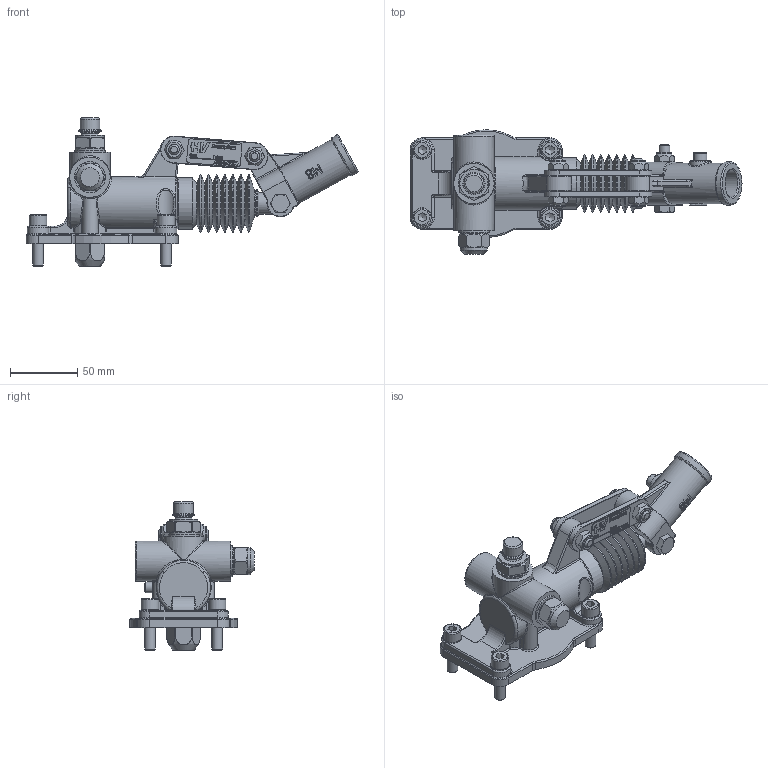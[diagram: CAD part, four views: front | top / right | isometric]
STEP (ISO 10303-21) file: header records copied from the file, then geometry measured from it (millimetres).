
FILE_DESCRIPTION((''),'2;1');
FILE_NAME('G:\HV_HYDRAULIC\AZIENDA_HV_HYDRAULIC\ARCHIVIO_DISEGNI\5_PRODOTTI_FINITI\1_POMPE_MANUALI\6066_PMSE_15\6066.0040_PMSE_15_byA-e-s_(HV)\6066.0040.stp','2024-03-25T16:16:20',('christian.scardovi'),(''),'Autodesk Inventor 2013','Autodesk Inventor 2013','');
FILE_SCHEMA(('AUTOMOTIVE_DESIGN { 1 0 10303 214 1 1 1 1 }'));
Length unit declared in the file: millimetre
Products named in the file (1): 6066.0040
Bounding box: 246.63 x 92.5 x 110 mm (x, y, z)
Volume: 345407.2 mm3; surface area: 90862.4 mm2
Topology: 1 solids, 1 shells, 1332 faces, 3309 edges, 2056 vertices
Faces by surface type: plane 603, cylinder 247, bspline 212, torus 125, cone 120, sphere 25
Full cylindrical faces by diameter (mm): 5 x6, 6 x1, 6.5 x1, 8 x7, 9 x2, 9.5 x2, 10 x1, 11.05 x5, 11.6 x1, 12 x4, 13 x4, 13.5 x1, 14 x4, 14.5 x1, 14.95 x4, 16 x1, 16.5 x1, 16.6 x2, 17 x1, 20 x3, 20.5 x2, 21 x2, 22 x3, 23 x3, 30 x4, 32 x1, 38.004 x1
Entity records: 42575 total; most frequent: CARTESIAN_POINT 12167, ORIENTED_EDGE 6112, DIRECTION 5489, EDGE_CURVE 3056, VERTEX_POINT 1994, AXIS2_PLACEMENT_3D 1953, EDGE_LOOP 1614, VECTOR 1583
